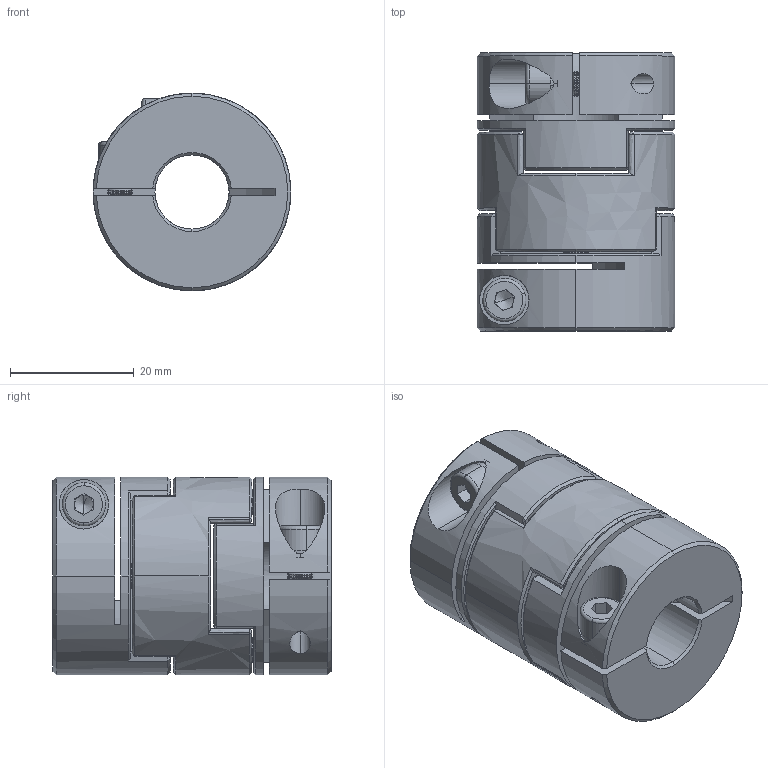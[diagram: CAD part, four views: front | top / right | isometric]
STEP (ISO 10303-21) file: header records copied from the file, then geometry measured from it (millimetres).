
FILE_DESCRIPTION (( 'STEP AP203' ), '1' );
FILE_NAME ('LZ-B-D32L45-12-16.STEP', '2021-10-29T06:48:03', ( '' ), ( '' ), 'SwSTEP 2.0', 'SolidWorks 2018', '' );
FILE_SCHEMA (( 'CONFIG_CONTROL_DESIGN' ));
Length unit declared in the file: millimetre
Products named in the file (1): LZ-B-D32L45-12-16
Bounding box: 32 x 45 x 32 mm (x, y, z)
Volume: 26541.8 mm3; surface area: 12994.4 mm2
Topology: 1 solids, 1 shells, 357 faces, 862 edges, 502 vertices
Faces by surface type: cone 118, cylinder 92, plane 85, bspline 54, torus 8
Entity records: 11209 total; most frequent: CARTESIAN_POINT 3224, ORIENTED_EDGE 1716, DIRECTION 1582, EDGE_CURVE 858, AXIS2_PLACEMENT_3D 620, VERTEX_POINT 502, EDGE_LOOP 382, FACE_OUTER_BOUND 357
